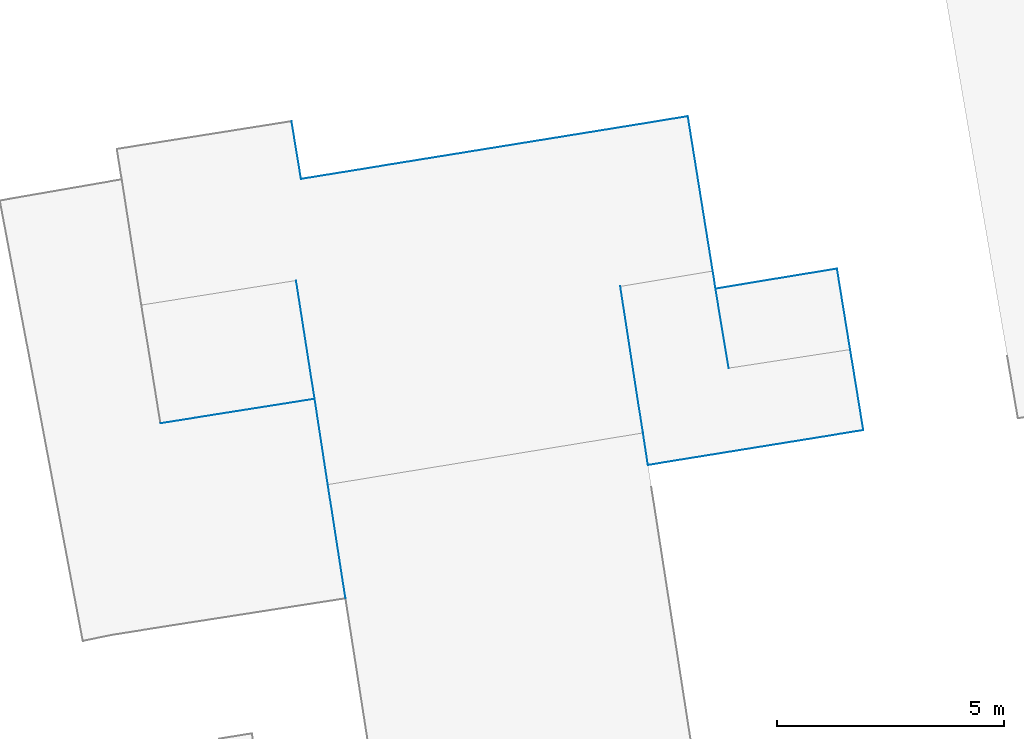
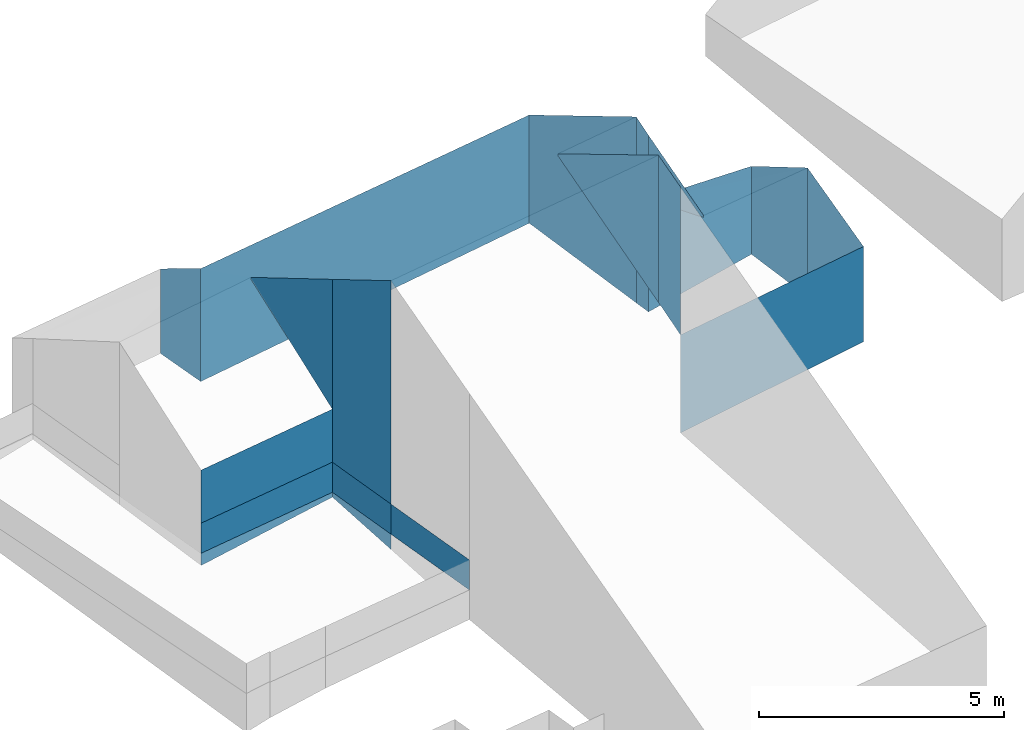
# Not in any storey, part 29 of 59: 20 walls.
"""IFC4 building model written with IfcOpenShell, lengths in metres."""

import ifcopenshell
import ifcopenshell.guid

model = None  # the IFC model being written
_history = None  # IfcOwnerHistory: only IFC2X3 demands one
_inside = {}  # id of a spatial element -> (the spatial element, [elements in it])
_under = {}  # id of a project, library or spatial element -> (it, [spatial elements below it])
_declared = {}  # id of a project -> (the project, [libraries it declares])
_typed = {}  # id of a type object -> (the type object, [elements of that type])
_made_of = {}  # id of a material, layer set ... -> (it, [elements and type objects made of it])


def new_model(schema):
    """Start an empty IFC model of exactly this schema.

    Asked for "IFC4X3", IfcOpenShell would pick the latest addendum, in which some entities
    have other attributes; the version numbers below select the first issue.
    IFC2X3 requires an IfcOwnerHistory on every rooted entity: one is made here for all.
    """
    global model, _history
    if schema == "IFC4X3":
        model = ifcopenshell.file(schema_version=(4, 3, 0, 0))
    else:
        model = ifcopenshell.file(schema=schema)
    _inside.clear()
    _under.clear()
    _declared.clear()
    _typed.clear()
    _made_of.clear()
    _history = None
    if model.schema == "IFC2X3":
        org = make("IfcOrganization", Name="unknown")
        user = make(
            "IfcPersonAndOrganization",
            ThePerson=make("IfcPerson", FamilyName="unknown"),
            TheOrganization=org,
        )
        app = make(
            "IfcApplication",
            ApplicationDeveloper=org,
            Version="unknown",
            ApplicationFullName="unknown",
            ApplicationIdentifier="unknown",
        )
        _history = make(
            "IfcOwnerHistory",
            OwningUser=user,
            OwningApplication=app,
            ChangeAction="ADDED",
            CreationDate=0,
        )
    return model


def make(cls, **values):
    """One entity of the class cls with the attributes given. An attribute that is None is left unset."""
    return model.create_entity(
        cls, **{name: value for name, value in values.items() if value is not None}
    )


def entity(cls, *values):
    """Any entity or typed value of the class cls, its attributes in the order of the schema. None: left unset."""
    e = model.create_entity(cls)
    for i, value in enumerate(values):
        if value is not None:
            e[i] = value
    return e


def rooted(cls, **values):
    """An entity with a GlobalId (a new one), such as an element, a storey or a relation."""
    return make(cls, GlobalId=ifcopenshell.guid.new(), OwnerHistory=_history, **values)


def si_unit(unit_type, name, prefix=None):
    """IfcSIUnit, for example si_unit("LENGTHUNIT", "METRE", prefix="MILLI")."""
    return make("IfcSIUnit", UnitType=unit_type, Prefix=prefix, Name=name)


def converted_unit(unit_type, name, factor, base, dimensions=None, offset=None):
    """IfcConversionBasedUnit, such as the inch: factor (a typed value) times the base unit."""
    return make(
        "IfcConversionBasedUnit"
        if offset is None
        else "IfcConversionBasedUnitWithOffset",
        ConversionOffset=offset,
        Dimensions=None
        if dimensions is None
        else entity("IfcDimensionalExponents", *dimensions),
        UnitType=unit_type,
        Name=name,
        ConversionFactor=make(
            "IfcMeasureWithUnit", ValueComponent=factor, UnitComponent=base
        ),
    )


def assignment(units):
    """IfcUnitAssignment: the units of a project."""
    return None if units is None else make("IfcUnitAssignment", Units=units)


def point(xyz):
    """IfcCartesianPoint."""
    return None if xyz is None else make("IfcCartesianPoint", Coordinates=xyz)


def direction(xyz):
    """IfcDirection."""
    return None if xyz is None else make("IfcDirection", DirectionRatios=xyz)


def frame(location, z_axis=None, x_axis=None):
    """IfcAxis2Placement3D, a coordinate frame: its origin and axes. An axis left out is left unset."""
    return make(
        "IfcAxis2Placement3D",
        Location=point(location),
        Axis=direction(z_axis),
        RefDirection=direction(x_axis),
    )


def origin():
    """The frame at (0, 0, 0) with its axes left unset."""
    return frame((0.0, 0.0, 0.0))


def place(relative_to, where):
    """IfcLocalPlacement: puts the frame where relative to a parent placement (None: the world)."""
    return make(
        "IfcLocalPlacement", PlacementRelTo=relative_to, RelativePlacement=where
    )


def context(
    kind, dimensions, precision=None, world=None, true_north=None, identifier=None
):
    """IfcGeometricRepresentationContext, for example the 3D "Model" context."""
    return make(
        "IfcGeometricRepresentationContext",
        ContextIdentifier=identifier,
        ContextType=kind,
        CoordinateSpaceDimension=dimensions,
        Precision=precision,
        WorldCoordinateSystem=world,
        TrueNorth=true_north,
    )


def subcontext(parent, identifier, kind, view, scale=None):
    """IfcGeometricRepresentationSubContext, for example "Body" below "Model"."""
    return make(
        "IfcGeometricRepresentationSubContext",
        ContextIdentifier=identifier,
        ContextType=kind,
        ParentContext=parent,
        TargetScale=scale,
        TargetView=view,
    )


def project(units=None, contexts=None):
    """IfcProject with its units and contexts."""
    return rooted(
        "IfcProject",
        Name="project",
        RepresentationContexts=contexts,
        UnitsInContext=assignment(units),
    )


def spatial(cls, under=None, at=None, **own):
    """A site, building, storey or space (cls), placed at a placement, below another one or the project."""
    s = rooted(cls, ObjectPlacement=at, **own)
    if under is not None:
        _under.setdefault(under.id(), (under, []))[1].append(s)
    return s


def faces_of(points, faces, orient=None, outer=None):
    """IfcFace entities. A face is a list of loops; a loop is a list of indices into points, from 0.

    orient and outer hold one flag for each loop. By default every Orientation is true, the
    first loop of a face is its IfcFaceOuterBound and the others are IfcFaceBound.
    """
    made = []
    for i, loops in enumerate(faces):
        bounds = []
        for j, loop in enumerate(loops):
            is_outer = j == 0 if outer is None else outer[i][j]
            bounds.append(
                make(
                    "IfcFaceOuterBound" if is_outer else "IfcFaceBound",
                    Bound=make("IfcPolyLoop", Polygon=[points[k] for k in loop]),
                    Orientation=True if orient is None else orient[i][j],
                )
            )
        made.append(make("IfcFace", Bounds=bounds))
    return made


def face_set(faces, orient=None, outer=None):
    """The faces of one IfcConnectedFaceSet. surface_model builds it on its shared points."""
    return ("IfcConnectedFaceSet", faces, orient, outer)


def surface_model(cls, points, shells):
    """IfcFaceBasedSurfaceModel or IfcShellBasedSurfaceModel (cls): surfaces that need not close."""
    shared = [point(p) for p in points]
    made = [make(c, CfsFaces=faces_of(shared, fs, o, b)) for c, fs, o, b in shells]
    if cls == "IfcFaceBasedSurfaceModel":
        return make(cls, FbsmFaces=made)
    return make(cls, SbsmBoundary=made)


def shape(context_of_items, identifier, shape_type, items):
    """IfcShapeRepresentation: the items that make up one representation, for example the "Body"."""
    return make(
        "IfcShapeRepresentation",
        ContextOfItems=context_of_items,
        RepresentationIdentifier=identifier,
        RepresentationType=shape_type,
        Items=items,
    )


def made_of(thing, what):
    """Note that an element or type object is made of a material, layer set ...; save() writes the relation."""
    if what is not None:
        _made_of.setdefault(what.id(), (what, []))[1].append(thing)
    return thing


def element(
    cls,
    number,
    at=None,
    inside=None,
    cuts=None,
    type_object=None,
    material=None,
    context=None,
    identifier="Body",
    shape_type=None,
    held_by="IfcProductDefinitionShape",
    body=None,
    shapes=None,
    **own,
):
    """One element of the class cls, such as IfcWall. Its Tag is "e" and its number.

    at: its placement. inside: the storey or other place that contains it. cuts: it is an
    opening in that element (IfcRelVoidsElement). A single representation is given by context,
    identifier, shape_type and body (its items); several are given by shapes. held_by: the class
    of the entity that holds the representations. save() writes the other relations.
    """
    e = rooted(cls, Tag="e%d" % number, ObjectPlacement=at, **own)
    if body is not None:
        shapes = [shape(context, identifier, shape_type, body)]
    if shapes is not None:
        e.Representation = make(held_by, Representations=shapes)
    if inside is not None:
        _inside.setdefault(inside.id(), (inside, []))[1].append(e)
    if cuts is not None:
        rooted(
            "IfcRelVoidsElement", RelatingBuildingElement=cuts, RelatedOpeningElement=e
        )
    if type_object is not None:
        _typed.setdefault(type_object.id(), (type_object, []))[1].append(e)
    return made_of(e, material)


def aggregate(whole, parts):
    """IfcRelAggregates: a whole, such as a stair, and the parts it consists of."""
    return rooted("IfcRelAggregates", RelatingObject=whole, RelatedObjects=parts)


def save(model, path):
    """Write the relations noted so far, then the file.

    IfcRelAggregates (storeys below a building ...), IfcRelContainedInSpatialStructure (elements
    in a storey), IfcRelDefinesByType, IfcRelAssociatesMaterial and IfcRelDeclares: one each for
    every whole, place, type object, material and project.
    """
    for whole, parts in _under.values():
        aggregate(whole, parts)
    for where, things in _inside.values():
        rooted(
            "IfcRelContainedInSpatialStructure",
            RelatedElements=things,
            RelatingStructure=where,
        )
    for kind, things in _typed.values():
        rooted("IfcRelDefinesByType", RelatedObjects=things, RelatingType=kind)
    for what, things in _made_of.values():
        rooted("IfcRelAssociatesMaterial", RelatedObjects=things, RelatingMaterial=what)
    for by, libraries in _declared.values():
        rooted("IfcRelDeclares", RelatingContext=by, RelatedDefinitions=libraries)
    model.write(path)


model = new_model("IFC4")

# Units and contexts
model_context = context("Model", 3, precision=1e-05, world=origin())
body_context = subcontext(model_context, "Body", "Model", "MODEL_VIEW")
ifc_project = project(units=[converted_unit("PLANEANGLEUNIT", "DEGREE", entity("IfcRatioMeasure", 0.0174532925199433), si_unit("PLANEANGLEUNIT", "RADIAN"), dimensions=[0, 0, 0, 0, 0, 0, 0]), si_unit("AREAUNIT", "SQUARE_METRE"), si_unit("LENGTHUNIT", "METRE")], contexts=[model_context])

# Site, building
site_placement = place(None, origin())
site = spatial("IfcSite", under=ifc_project, at=site_placement, Name="_site")
building_placement = place(site_placement, origin())
building = spatial("IfcBuilding", under=site, at=building_placement, Name="_building")

# Walls
wall_1_placement = place(building_placement, origin())
element("IfcWall", 1, at=wall_1_placement, inside=building, Name="Wall", PredefinedType="NOTDEFINED", context=body_context, shape_type="SurfaceModel", body=[
    surface_model("IfcFaceBasedSurfaceModel", [(167.71, 242.08, 224.64), (168.21, 238.85, 226.39), (168.21, 238.85, 222.729), (167.71, 242.08, 224.59)], [face_set([[[0, 1, 2, 3]]])]),
])
wall_2_placement = place(building_placement, origin())
element("IfcWall", 2, at=wall_2_placement, inside=building, Name="Wall", PredefinedType="NOTDEFINED", context=body_context, shape_type="SurfaceModel", body=[
    surface_model("IfcFaceBasedSurfaceModel", [(168.21, 238.85, 226.39), (168.32, 238.141, 225.99), (168.32, 238.141, 222.31), (168.21, 238.85, 222.729)], [face_set([[[0, 1, 2, 3]]])]),
])
wall_3_placement = place(building_placement, origin())
element("IfcWall", 3, at=wall_3_placement, inside=building, Name="Wall", PredefinedType="NOTDEFINED", context=body_context, shape_type="SurfaceModel", body=[
    surface_model("IfcFaceBasedSurfaceModel", [(160.97, 239.6, 225.38), (160.56, 242.211, 223.99), (160.56, 242.211, 223.94), (160.97, 239.6, 222.15)], [face_set([[[0, 1, 2, 3]]])]),
])
wall_4_placement = place(building_placement, origin())
element("IfcWall", 4, at=wall_4_placement, inside=building, Name="Wall", PredefinedType="NOTDEFINED", context=body_context, shape_type="SurfaceModel", body=[
    surface_model("IfcFaceBasedSurfaceModel", [(169.81, 242.029, 224.4), (170.1, 240.279, 223.36), (170.1, 240.279, 223.31), (169.81, 242.029, 222.8)], [face_set([[[0, 1, 2, 3]]])]),
])
wall_5_placement = place(building_placement, origin())
element("IfcWall", 5, at=wall_5_placement, inside=building, Name="Wall", PredefinedType="NOTDEFINED", context=body_context, shape_type="SurfaceModel", body=[
    surface_model("IfcFaceBasedSurfaceModel", [(161.26, 237.711, 226.39), (160.97, 239.6, 225.38), (160.97, 239.6, 219.96), (161.26, 237.711, 219.7)], [face_set([[[0, 1, 2, 3]]])]),
])
wall_6_placement = place(building_placement, origin())
element("IfcWall", 6, at=wall_6_placement, inside=building, Name="Wall", PredefinedType="NOTDEFINED", context=body_context, shape_type="SurfaceModel", body=[
    surface_model("IfcFaceBasedSurfaceModel", [(169.2, 245.83, 222.81), (169.75, 242.42, 224.64), (169.75, 242.42, 220.01), (169.2, 245.83, 220.116)], [face_set([[[0, 1, 2, 3]]])]),
])
wall_7_placement = place(building_placement, origin())
element("IfcWall", 7, at=wall_7_placement, inside=building, Name="Wall", PredefinedType="NOTDEFINED", context=body_context, shape_type="SurfaceModel", body=[
    surface_model("IfcFaceBasedSurfaceModel", [(169.75, 242.42, 224.64), (169.81, 242.029, 224.4), (169.81, 242.029, 220.0), (169.75, 242.42, 220.01)], [face_set([[[0, 1, 2, 3]]])]),
])
wall_8_placement = place(building_placement, origin())
element("IfcWall", 8, at=wall_8_placement, inside=building, Name="Wall", PredefinedType="NOTDEFINED", context=body_context, shape_type="SurfaceModel", body=[
    surface_model("IfcFaceBasedSurfaceModel", [(172.49, 242.471, 222.42), (172.78, 240.689, 223.36), (172.78, 240.689, 220.154), (172.49, 242.471, 220.228)], [face_set([[[0, 1, 2, 3]]])]),
])
wall_9_placement = place(building_placement, origin())
element("IfcWall", 9, at=wall_9_placement, inside=building, Name="Wall", PredefinedType="NOTDEFINED", context=body_context, shape_type="SurfaceModel", body=[
    surface_model("IfcFaceBasedSurfaceModel", [(172.78, 240.689, 223.36), (173.07, 238.91, 222.38), (173.07, 238.91, 220.008), (172.78, 240.689, 220.154)], [face_set([[[0, 1, 2, 3]]])]),
])
wall_10_placement = place(building_placement, origin())
element("IfcWall", 10, at=wall_10_placement, inside=building, Name="Wall", PredefinedType="NOTDEFINED", context=body_context, shape_type="SurfaceModel", body=[
    surface_model("IfcFaceBasedSurfaceModel", [(160.67, 244.449, 222.81), (169.2, 245.83, 222.81), (169.2, 245.83, 220.116), (160.67, 244.449, 220.0)], [face_set([[[0, 1, 2, 3]]])]),
])
wall_11_placement = place(building_placement, origin())
element("IfcWall", 11, at=wall_11_placement, inside=building, Name="Wall", PredefinedType="NOTDEFINED", context=body_context, shape_type="SurfaceModel", body=[
    surface_model("IfcFaceBasedSurfaceModel", [(160.46, 245.721, 222.11), (160.67, 244.449, 222.81), (160.67, 244.449, 220.0), (160.46, 245.721, 220.0)], [face_set([[[0, 1, 2, 3]]])]),
])
wall_12_placement = place(building_placement, origin())
element("IfcWall", 12, at=wall_12_placement, inside=building, Name="Wall", PredefinedType="NOTDEFINED", context=body_context, shape_type="SurfaceModel", body=[
    surface_model("IfcFaceBasedSurfaceModel", [(169.81, 242.029, 222.8), (172.49, 242.471, 222.42), (172.49, 242.471, 220.228), (169.81, 242.029, 220.0)], [face_set([[[0, 1, 2, 3]]])]),
])
wall_13_placement = place(building_placement, origin())
element("IfcWall", 13, at=wall_13_placement, inside=building, Name="Wall", PredefinedType="NOTDEFINED", context=body_context, shape_type="SurfaceModel", body=[
    surface_model("IfcFaceBasedSurfaceModel", [(173.07, 238.91, 222.38), (168.32, 238.141, 222.31), (168.32, 238.141, 219.868), (173.07, 238.91, 220.008)], [face_set([[[0, 1, 2, 3]]])]),
])
wall_14_placement = place(building_placement, origin())
element("IfcWall", 14, at=wall_14_placement, inside=building, Name="Wall", PredefinedType="NOTDEFINED", context=body_context, shape_type="SurfaceModel", body=[
    surface_model("IfcFaceBasedSurfaceModel", [(160.97, 239.6, 222.15), (157.57, 239.061, 222.15), (157.57, 239.061, 219.776), (160.97, 239.6, 219.96)], [face_set([[[0, 1, 2, 3]]])]),
])
for number, where, name in (
    (15, (0.0, 0.0, 0.0), "Wall"),
    (16, (0.0, 0.0, 0.0), "Wall"),
):
    element("IfcWall", number, at=place(building_placement, frame(where)), inside=building, Name=name, PredefinedType="NOTDEFINED", context=body_context, shape_type="SurfaceModel", body=[
        surface_model("IfcFaceBasedSurfaceModel", [(160.97, 239.6, 220.08), (157.57, 239.061, 220.08), (157.57, 239.061, 220.83), (160.97, 239.6, 220.83)], [face_set([[[0, 1, 2, 3]]])]),
    ])
for number, where, name in (
    (17, (0.0, 0.0, 0.0), "Wall"),
    (18, (0.0, 0.0, 0.0), "Wall"),
):
    element("IfcWall", number, at=place(building_placement, frame(where)), inside=building, Name=name, PredefinedType="NOTDEFINED", context=body_context, shape_type="SurfaceModel", body=[
        surface_model("IfcFaceBasedSurfaceModel", [(161.26, 237.711, 220.08), (160.97, 239.6, 220.08), (160.97, 239.6, 220.83), (161.26, 237.711, 220.83)], [face_set([[[0, 1, 2, 3]]])]),
    ])
for number, where, name in (
    (19, (0.0, 0.0, 0.0), "Wall"),
    (20, (0.0, 0.0, 0.0), "Wall"),
):
    element("IfcWall", number, at=place(building_placement, frame(where)), inside=building, Name=name, PredefinedType="NOTDEFINED", context=body_context, shape_type="SurfaceModel", body=[
        surface_model("IfcFaceBasedSurfaceModel", [(161.651, 235.199, 220.08), (161.26, 237.711, 220.08), (161.26, 237.711, 220.83), (161.651, 235.199, 220.83)], [face_set([[[0, 1, 2, 3]]])]),
    ])

save(model, "model.ifc")
